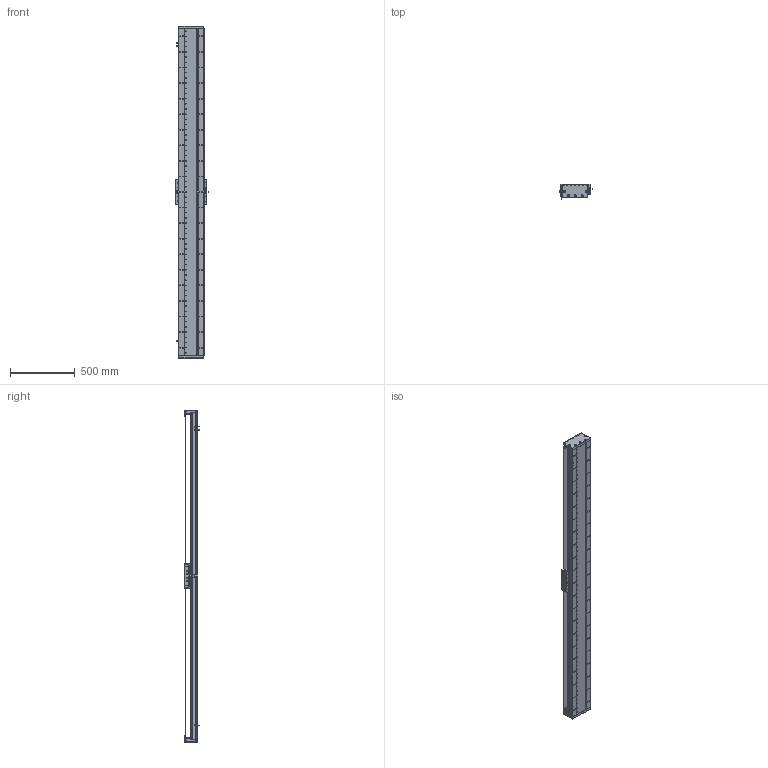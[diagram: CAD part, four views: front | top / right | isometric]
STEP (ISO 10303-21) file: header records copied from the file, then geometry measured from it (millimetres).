
FILE_DESCRIPTION (( 'STEP AP203' ), '1' );
FILE_NAME ('DA-C195-C2-T2280-C010-0.2 眻盄萇儂.STEP', '2025-08-15T01:11:45', ( '' ), ( '' ), 'SwSTEP 2.0', 'SolidWorks 2019', '' );
FILE_SCHEMA (( 'CONFIG_CONTROL_DESIGN' ));
Length unit declared in the file: millimetre
Products named in the file (15): DA-C195-C2-T2280-C010-0.2 眻盄萇儂; PM-T45ㄗ侂狟ㄘ; DA195詩湍郪璃; MS200 棠掑喜S315-T1740; 葩璃 DA95-GT-T-00; DA165-GYP-00 光电感应片(默认); DA95-HXJ-00 遣喳砎蝶; DA195詩湍菜輸; DA195詩湍裔啣; DA-C195-GD-DB-H-00 傷啣; LMT黍杅芛; IU-CU195-L-00 菁釱(L2520); IU-CU195-L 菁釱絳寢; DA195詩湍嶺輸; CU195-C2賑輸-俋楷
Assembly tree (29 placements, depth 3):
  DA-C195-C2-T2280-C010-0.2 眻盄萇儂
    DA195詩湍郪璃
      DA195詩湍菜輸  x2
      DA195詩湍裔啣
      DA195詩湍嶺輸  x2
      DA95-HXJ-00 遣喳砎蝶  x8
      DA-C195-GD-DB-H-00 傷啣  x2
    IU-CU195-L 菁釱絳寢
      IU-CU195-L-00 菁釱(L2520)
      葩璃 DA95-GT-T-00  x4
    LMT黍杅芛
    MS200 棠掑喜S315-T1740
    PM-T45ㄗ侂狟ㄘ  x3
    DA165-GYP-00 光电感应片(默认)
    CU195-C2賑輸-俋楷
Bounding box: 248 x 115.45 x 2560 mm (x, y, z)
Volume: 14749022.3 mm3; surface area: 4357433.7 mm2
Topology: 66 solids, 130 shells, 4352 faces, 12115 edges, 7623 vertices
Faces by surface type: cylinder 2335, plane 1399, cone 530, torus 52, sphere 36
Entity records: 138635 total; most frequent: CARTESIAN_POINT 37342, ORIENTED_EDGE 21114, DIRECTION 20432, EDGE_CURVE 10557, AXIS2_PLACEMENT_3D 7677, VERTEX_POINT 6825, LINE 5078, VECTOR 5078
